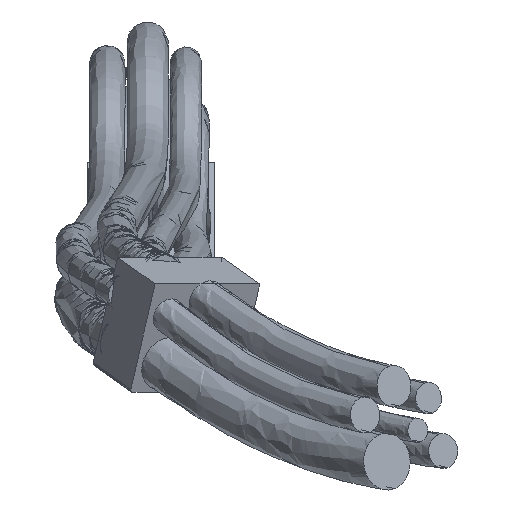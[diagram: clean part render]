
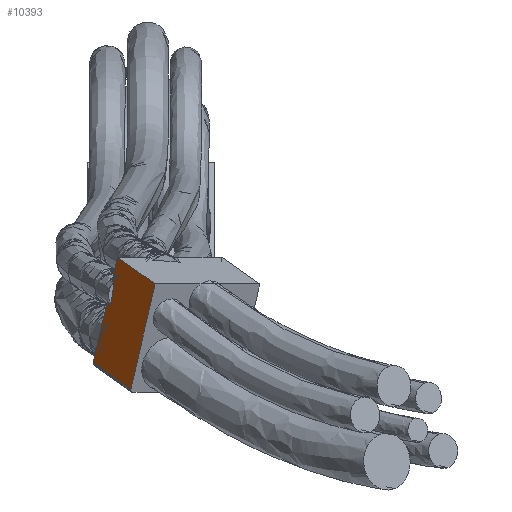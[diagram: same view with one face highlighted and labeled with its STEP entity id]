
A CAD part, top view. The second image highlights one B-rep face of the part: STEP entity #10393.
In plain terms, the highlighted planar face has unit normal (-0.819, 0, 0.574).
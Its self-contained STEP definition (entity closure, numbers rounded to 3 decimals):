
#1464 = FACE_OUTER_BOUND ( 'NONE', #1765, .T. ) ;
#1469 = LINE ( 'NONE', #6643, #1725 ) ;
#1482 = ORIENTED_EDGE ( 'NONE', *, *, #2162, .T. ) ;
#1484 = VECTOR ( 'NONE', #5216, 1000. ) ;
#1507 = ORIENTED_EDGE ( 'NONE', *, *, #2151, .T. ) ;
#1510 = VECTOR ( 'NONE', #7524, 1000. ) ;
#1572 = ORIENTED_EDGE ( 'NONE', *, *, #2137, .F. ) ;
#1577 = ORIENTED_EDGE ( 'NONE', *, *, #2177, .F. ) ;
#1630 = ORIENTED_EDGE ( 'NONE', *, *, #2027, .F. ) ;
#1645 = ORIENTED_EDGE ( 'NONE', *, *, #2213, .F. ) ;
#1676 = LINE ( 'NONE', #7549, #1785 ) ;
#1678 = VECTOR ( 'NONE', #7071, 1000. ) ;
#1706 = ORIENTED_EDGE ( 'NONE', *, *, #2200, .T. ) ;
#1719 = LINE ( 'NONE', #7406, #1896 ) ;
#1725 = VECTOR ( 'NONE', #5804, 1000. ) ;
#1765 = EDGE_LOOP ( 'NONE', ( #1630, #1772, #1572, #1706, #1482, #1577, #1645, #1507 ) ) ;
#1772 = ORIENTED_EDGE ( 'NONE', *, *, #2088, .T. ) ;
#1785 = VECTOR ( 'NONE', #6281, 1000. ) ;
#1830 = LINE ( 'NONE', #7308, #1678 ) ;
#1896 = VECTOR ( 'NONE', #7405, 1000. ) ;
#1964 = LINE ( 'NONE', #6921, #1510 ) ;
#2006 = LINE ( 'NONE', #5206, #1484 ) ;
#2027 = EDGE_CURVE ( 'NONE', #4346, #4017, #2006, .T. ) ;
#2088 = EDGE_CURVE ( 'NONE', #4346, #4023, #2259, .T. ) ;
#2129 = AXIS2_PLACEMENT_3D ( 'NONE', #8538, #7997, #8113 ) ;
#2137 = EDGE_CURVE ( 'NONE', #4037, #4023, #1676, .T. ) ;
#2151 = EDGE_CURVE ( 'NONE', #3901, #4017, #2278, .T. ) ;
#2162 = EDGE_CURVE ( 'NONE', #4522, #4000, #1964, .T. ) ;
#2177 = EDGE_CURVE ( 'NONE', #4340, #4000, #1830, .T. ) ;
#2200 = EDGE_CURVE ( 'NONE', #4037, #4522, #1469, .T. ) ;
#2213 = EDGE_CURVE ( 'NONE', #3901, #4340, #1719, .T. ) ;
#2259 = B_SPLINE_CURVE_WITH_KNOTS ( 'NONE', 3,
 ( #4727, #4678, #4677, #4676 ),
 .UNSPECIFIED., .F., .F.,
 ( 4, 4 ),
 ( 0., 0.002 ),
 .UNSPECIFIED. ) ;
#2278 = B_SPLINE_CURVE_WITH_KNOTS ( 'NONE', 3,
 ( #7474, #7210, #7200, #7539 ),
 .UNSPECIFIED., .F., .F.,
 ( 4, 4 ),
 ( 0.016, 0.017 ),
 .UNSPECIFIED. ) ;
#3901 = VERTEX_POINT ( 'NONE', #8963 ) ;
#4000 = VERTEX_POINT ( 'NONE', #8904 ) ;
#4017 = VERTEX_POINT ( 'NONE', #8903 ) ;
#4023 = VERTEX_POINT ( 'NONE', #8913 ) ;
#4037 = VERTEX_POINT ( 'NONE', #8915 ) ;
#4340 = VERTEX_POINT ( 'NONE', #9003 ) ;
#4346 = VERTEX_POINT ( 'NONE', #8981 ) ;
#4522 = VERTEX_POINT ( 'NONE', #9009 ) ;
#4676 = CARTESIAN_POINT ( 'NONE',  ( 162.654, -284.967, 1466.764 ) ) ;
#4677 = CARTESIAN_POINT ( 'NONE',  ( 163.009, -285.241, 1467.271 ) ) ;
#4678 = CARTESIAN_POINT ( 'NONE',  ( 163.369, -285.499, 1467.785 ) ) ;
#4727 = CARTESIAN_POINT ( 'NONE',  ( 163.731, -285.747, 1468.302 ) ) ;
#5206 = CARTESIAN_POINT ( 'NONE',  ( 164.088, -283.11, 1468.812 ) ) ;
#5216 = DIRECTION ( 'NONE',  ( 0.132, 0.973, 0.188 ) ) ;
#5804 = DIRECTION ( 'NONE',  ( 0.532, -0.375, 0.76 ) ) ;
#6281 = DIRECTION ( 'NONE',  ( 0.215, 0.927, 0.307 ) ) ;
#6643 = CARTESIAN_POINT ( 'NONE',  ( 158.639, -302.292, 1461.03 ) ) ;
#6921 = CARTESIAN_POINT ( 'NONE',  ( 175.506, -282.896, 1485.119 ) ) ;
#7071 = DIRECTION ( 'NONE',  ( 0.532, -0.375, 0.76 ) ) ;
#7200 = CARTESIAN_POINT ( 'NONE',  ( 164.367, -279.449, 1469.211 ) ) ;
#7210 = CARTESIAN_POINT ( 'NONE',  ( 164.152, -279.437, 1468.904 ) ) ;
#7308 = CARTESIAN_POINT ( 'NONE',  ( 165.515, -272.623, 1470.85 ) ) ;
#7405 = DIRECTION ( 'NONE',  ( 0.215, 0.927, 0.307 ) ) ;
#7406 = CARTESIAN_POINT ( 'NONE',  ( 164.87, -275.404, 1469.929 ) ) ;
#7474 = CARTESIAN_POINT ( 'NONE',  ( 163.937, -279.429, 1468.597 ) ) ;
#7524 = DIRECTION ( 'NONE',  ( 0.215, 0.927, 0.307 ) ) ;
#7539 = CARTESIAN_POINT ( 'NONE',  ( 164.582, -279.465, 1469.518 ) ) ;
#7549 = CARTESIAN_POINT ( 'NONE',  ( 164.87, -275.404, 1469.929 ) ) ;
#7841 = PLANE ( 'NONE',  #2129 ) ;
#7997 = DIRECTION ( 'NONE',  ( 0.819, 0., -0.574 ) ) ;
#8113 = DIRECTION ( 'NONE',  ( 0., 1., 0. ) ) ;
#8538 = CARTESIAN_POINT ( 'NONE',  ( 164.87, -275.404, 1469.929 ) ) ;
#8903 = CARTESIAN_POINT ( 'NONE',  ( 164.582, -279.465, 1469.518 ) ) ;
#8904 = CARTESIAN_POINT ( 'NONE',  ( 176.151, -280.115, 1486.04 ) ) ;
#8913 = CARTESIAN_POINT ( 'NONE',  ( 162.654, -284.967, 1466.764 ) ) ;
#8915 = CARTESIAN_POINT ( 'NONE',  ( 158.639, -302.292, 1461.03 ) ) ;
#8963 = CARTESIAN_POINT ( 'NONE',  ( 163.937, -279.429, 1468.597 ) ) ;
#8981 = CARTESIAN_POINT ( 'NONE',  ( 163.731, -285.747, 1468.302 ) ) ;
#9003 = CARTESIAN_POINT ( 'NONE',  ( 165.515, -272.623, 1470.85 ) ) ;
#9009 = CARTESIAN_POINT ( 'NONE',  ( 169.275, -309.785, 1476.22 ) ) ;
#10393 = ADVANCED_FACE ( 'NONE', ( #1464 ), #7841, .F. ) ;
